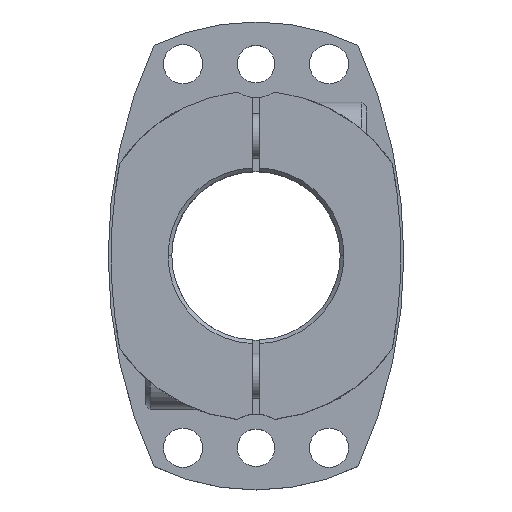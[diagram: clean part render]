
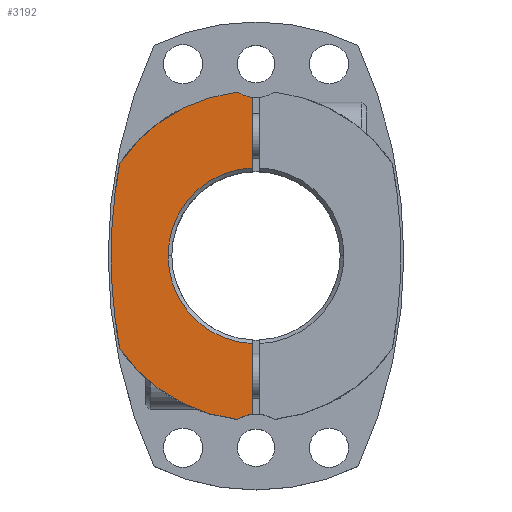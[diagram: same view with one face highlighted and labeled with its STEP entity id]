
A CAD part, top view. The second image highlights one B-rep face of the part: STEP entity #3192.
In plain terms, the highlighted planar face has unit normal (0, 0, 1).
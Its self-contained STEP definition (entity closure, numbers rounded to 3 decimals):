
#412=CARTESIAN_POINT('',(-23.5,0.,36.0));
#413=VERTEX_POINT('',#412);
#421=CARTESIAN_POINT('',(-1.,23.479,36.0));
#422=VERTEX_POINT('',#421);
#436=CARTESIAN_POINT('',(0.,0.,36.0));
#437=DIRECTION('',(0.0,0.0,1.0));
#438=DIRECTION('',(-1.0,0.0,0.0));
#439=AXIS2_PLACEMENT_3D('',#436,#437,#438);
#440=CIRCLE('',#439,23.5);
#441=EDGE_CURVE('',#422,#413,#440,.T.);
#924=CARTESIAN_POINT('',(-38.7,0.,36.0));
#925=VERTEX_POINT('',#924);
#934=CARTESIAN_POINT('',(-36.405,24.712,36.0));
#935=VERTEX_POINT('',#934);
#936=CARTESIAN_POINT('',(95.5,0.,36.0));
#937=DIRECTION('',(0.0,0.0,-1.0));
#938=DIRECTION('',(1.0,0.0,0.0));
#939=AXIS2_PLACEMENT_3D('',#936,#937,#938);
#940=CIRCLE('',#939,134.2);
#941=EDGE_CURVE('',#925,#935,#940,.T.);
#2308=CARTESIAN_POINT('',(-36.405,-24.712,36.0));
#2309=VERTEX_POINT('',#2308);
#2316=CARTESIAN_POINT('',(95.5,0.,36.0));
#2317=DIRECTION('',(0.0,0.0,-1.0));
#2318=DIRECTION('',(1.0,0.0,0.0));
#2319=AXIS2_PLACEMENT_3D('',#2316,#2317,#2318);
#2320=CIRCLE('',#2319,134.2);
#2321=EDGE_CURVE('',#2309,#925,#2320,.T.);
#2753=CARTESIAN_POINT('',(-1.,42.306,36.0));
#2754=VERTEX_POINT('',#2753);
#2770=CARTESIAN_POINT('',(-4.933,43.723,36.0));
#2771=VERTEX_POINT('',#2770);
#2778=CARTESIAN_POINT('',(0.,51.25,36.0));
#2779=DIRECTION('',(0.0,0.0,-1.0));
#2780=DIRECTION('',(1.0,0.0,0.0));
#2781=AXIS2_PLACEMENT_3D('',#2778,#2779,#2780);
#2782=CIRCLE('',#2781,9.0);
#2783=EDGE_CURVE('',#2754,#2771,#2782,.T.);
#2837=CARTESIAN_POINT('',(-4.933,-43.723,36.0));
#2838=VERTEX_POINT('',#2837);
#2854=CARTESIAN_POINT('',(-1.,-42.306,36.0));
#2855=VERTEX_POINT('',#2854);
#2862=CARTESIAN_POINT('',(0.,-51.25,36.0));
#2863=DIRECTION('',(0.0,0.0,-1.0));
#2864=DIRECTION('',(1.0,0.0,0.0));
#2865=AXIS2_PLACEMENT_3D('',#2862,#2863,#2864);
#2866=CIRCLE('',#2865,9.0);
#2867=EDGE_CURVE('',#2838,#2855,#2866,.T.);
#2986=CARTESIAN_POINT('',(-1.,23.479,36.0));
#2987=DIRECTION('',(0.0,1.0,0.0));
#2988=VECTOR('',#2987,18.827);
#2989=LINE('',#2986,#2988);
#2990=EDGE_CURVE('',#422,#2754,#2989,.T.);
#3143=CARTESIAN_POINT('',(0.,0.,36.0));
#3144=DIRECTION('',(0.0,0.0,-1.0));
#3145=DIRECTION('',(1.0,0.0,0.0));
#3146=AXIS2_PLACEMENT_3D('',#3143,#3144,#3145);
#3147=CIRCLE('',#3146,44.);
#3148=EDGE_CURVE('',#2838,#2309,#3147,.T.);
#3156=CARTESIAN_POINT('',(0.,0.,36.0));
#3157=DIRECTION('',(0.0,0.0,1.0));
#3158=DIRECTION('',(1.0,0.0,0.0));
#3159=AXIS2_PLACEMENT_3D('',#3156,#3157,#3158);
#3160=PLANE('',#3159);
#3161=ORIENTED_EDGE('',*,*,#2783,.T.);
#3162=CARTESIAN_POINT('',(0.,0.,36.0));
#3163=DIRECTION('',(0.0,0.0,-1.0));
#3164=DIRECTION('',(1.0,0.0,0.0));
#3165=AXIS2_PLACEMENT_3D('',#3162,#3163,#3164);
#3166=CIRCLE('',#3165,44.);
#3167=EDGE_CURVE('',#935,#2771,#3166,.T.);
#3168=ORIENTED_EDGE('',*,*,#3167,.F.);
#3169=ORIENTED_EDGE('',*,*,#941,.F.);
#3170=ORIENTED_EDGE('',*,*,#2321,.F.);
#3171=ORIENTED_EDGE('',*,*,#3148,.F.);
#3172=ORIENTED_EDGE('',*,*,#2867,.T.);
#3173=CARTESIAN_POINT('',(-1.,-23.479,36.0));
#3174=VERTEX_POINT('',#3173);
#3175=CARTESIAN_POINT('',(-1.,-42.306,36.0));
#3176=DIRECTION('',(0.0,1.0,0.0));
#3177=VECTOR('',#3176,18.827);
#3178=LINE('',#3175,#3177);
#3179=EDGE_CURVE('',#2855,#3174,#3178,.T.);
#3180=ORIENTED_EDGE('',*,*,#3179,.T.);
#3181=CARTESIAN_POINT('',(0.,0.,36.0));
#3182=DIRECTION('',(0.0,0.0,1.0));
#3183=DIRECTION('',(-1.0,0.0,0.0));
#3184=AXIS2_PLACEMENT_3D('',#3181,#3182,#3183);
#3185=CIRCLE('',#3184,23.5);
#3186=EDGE_CURVE('',#413,#3174,#3185,.T.);
#3187=ORIENTED_EDGE('',*,*,#3186,.F.);
#3188=ORIENTED_EDGE('',*,*,#441,.F.);
#3189=ORIENTED_EDGE('',*,*,#2990,.T.);
#3190=EDGE_LOOP('',(#3161,#3168,#3169,#3170,#3171,#3172,#3180,#3187,#3188,#3189));
#3191=FACE_OUTER_BOUND('',#3190,.T.);
#3192=ADVANCED_FACE('',(#3191),#3160,.T.);
